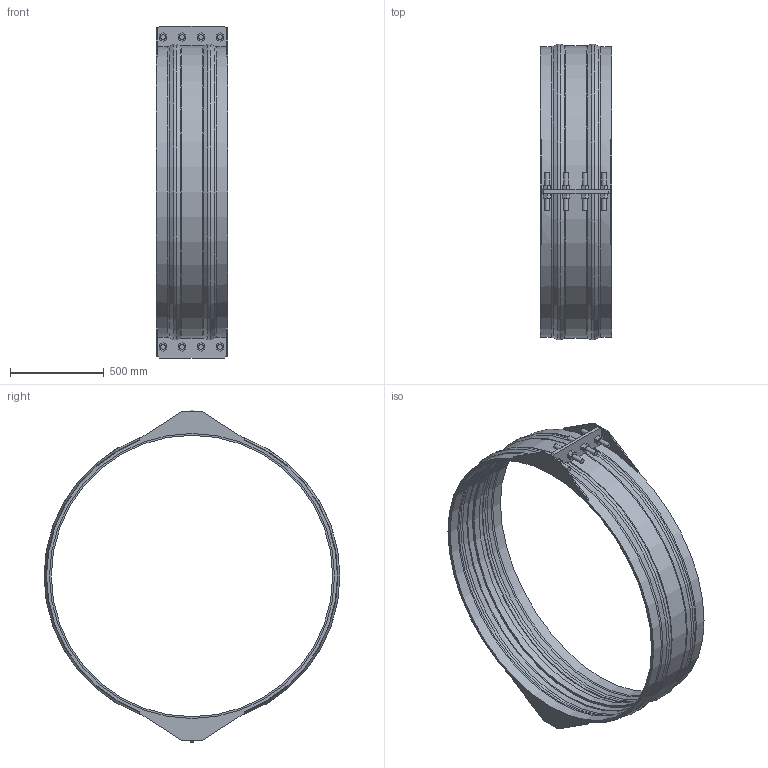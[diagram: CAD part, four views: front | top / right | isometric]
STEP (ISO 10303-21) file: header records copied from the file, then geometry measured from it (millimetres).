
FILE_DESCRIPTION(/* description */ ('VIC RESTRAINED COUPLING STYLE 233 (FLEX) (BRD)','CAx-IF Rec.Pracs.---Representation and Presentation of Product Manufacturing Information (PMI)---4.0---2014-10-13'),/* implementation_level */ '2;1');
FILE_NAME(/* name */ 'C:\Users\Vjadhav\Desktop\CAD for Inventor\Test for STEP\Vivek\Adsk_Inventor_Bolted Sleeve_iParts\STEP\Victaulic_VBSP_Coupling Flexible Restrained_Style 233 (BRD)\Victaulic_VBSP_Coupling Flexible Restrained_Style 233 (BRD)_250psi_60 (1500).stp',/* time_stamp */ '2020-09-24T12:30:36+05:00',/* author */ ('Vjadhav'),/* organization */ ('Victaulic'),/* preprocessor_version */ 'ST-DEVELOPER v17.2',/* originating_system */ 'Autodesk Inventor 2019',/* authorisation */ '');
FILE_SCHEMA (('AP242_MANAGED_MODEL_BASED_3D_ENGINEERING_MIM_LF { 1 0 10303 442 1 1 4 }'));
Length unit declared in the file: inch
Products named in the file (1): Style_233_Type_2_250psi-60.0
Bounding box: 381 x 1582.44 x 1775.46 mm (x, y, z)
Volume: 35446872.8 mm3; surface area: 4615874.1 mm2
Topology: 1 solids, 1 shells, 239 faces, 625 edges, 422 vertices
Faces by surface type: plane 166, cylinder 43, torus 18, cone 12
Full cylindrical faces by diameter (mm): 25.4 x16, 1504.95 x1, 1524 x2, 1530.35 x2
Entity records: 7896 total; most frequent: CARTESIAN_POINT 1496, DIRECTION 1259, ORIENTED_EDGE 1250, EDGE_CURVE 625, LINE 449, VECTOR 449, VERTEX_POINT 422, AXIS2_PLACEMENT_3D 405
